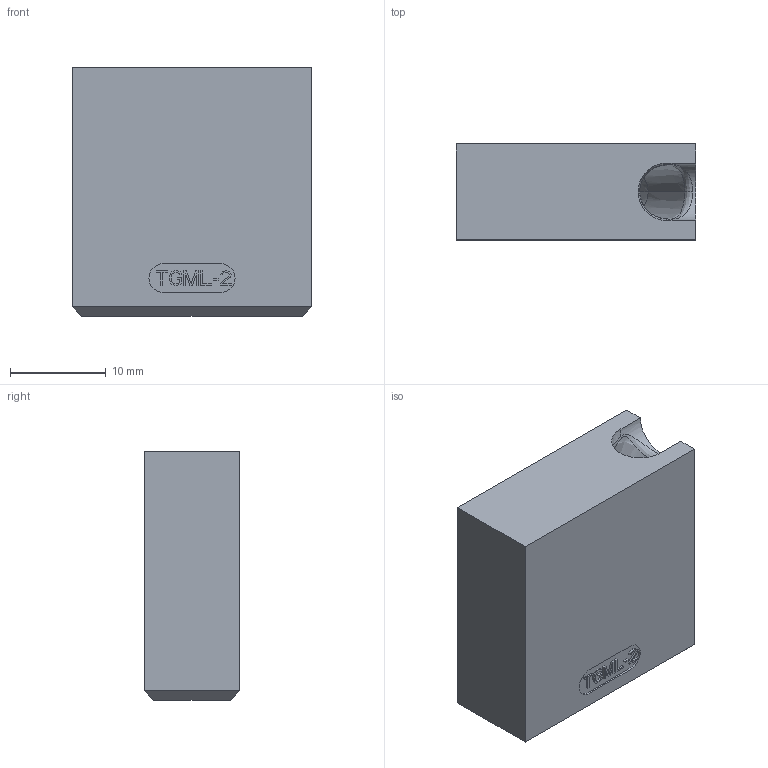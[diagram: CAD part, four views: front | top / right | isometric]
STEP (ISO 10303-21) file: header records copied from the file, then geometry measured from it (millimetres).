
FILE_DESCRIPTION((''),'2;1');
FILE_NAME('TGML2-GENERISCH','2018-10-08T',('gsawatzky'),(''),'CREO PARAMETRIC BY PTC INC, 2016260','CREO PARAMETRIC BY PTC INC, 2016260','');
FILE_SCHEMA(('AUTOMOTIVE_DESIGN { 1 0 10303 214 1 1 1 1 }'));
Length unit declared in the file: millimetre
Products named in the file (1): TGML2-GENERISCH
Bounding box: 25 x 10 x 26 mm (x, y, z)
Volume: 5890.4 mm3; surface area: 2888 mm2
Topology: 1 solids, 4 shells, 184 faces, 497 edges, 319 vertices
Faces by surface type: plane 144, bspline 12, cylinder 9, sphere 7, torus 4, cone 4, revolution 2, extrusion 2
Entity records: 8598 total; most frequent: CARTESIAN_POINT 2433, ORIENTED_EDGE 968, DIRECTION 859, PRESENTATION_STYLE_ASSIGNMENT 492, STYLED_ITEM 492, CURVE_STYLE 488, EDGE_CURVE 488, VECTOR 413
